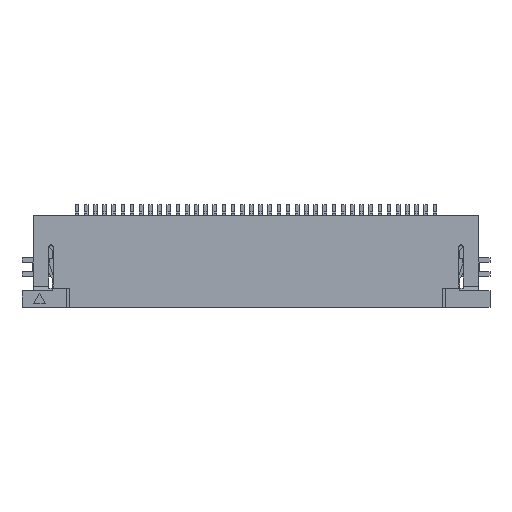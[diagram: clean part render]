
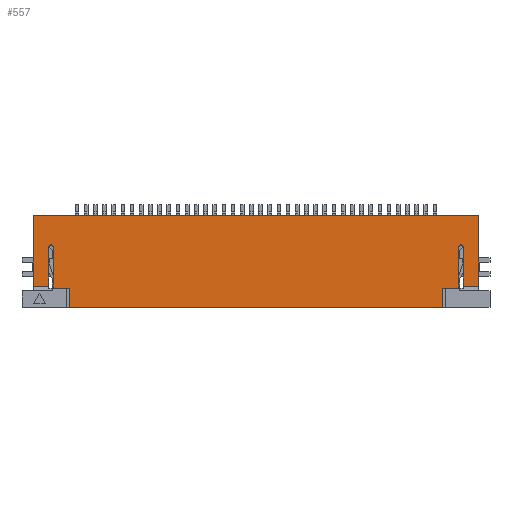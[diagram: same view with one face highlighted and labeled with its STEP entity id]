
A CAD part, top view. The second image highlights one B-rep face of the part: STEP entity #557.
In plain terms, the highlighted planar face has unit normal (0, 0, 1).
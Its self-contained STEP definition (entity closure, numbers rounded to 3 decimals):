
#266=CIRCLE('',#42918,0.125);
#267=CIRCLE('',#42919,0.125);
#557=ADVANCED_FACE('',(#4675),#2679,.T.);
#2679=PLANE('',#42920);
#4675=FACE_OUTER_BOUND('',#6793,.T.);
#6793=EDGE_LOOP('',(#9530,#9531,#9532,#9533,#9534,#9535,#9536,#9537,#9538,
#9539,#9540,#9541,#9542,#9543,#9544,#9545));
#9530=ORIENTED_EDGE('',*,*,#25679,.F.);
#9531=ORIENTED_EDGE('',*,*,#25680,.F.);
#9532=ORIENTED_EDGE('',*,*,#25681,.F.);
#9533=ORIENTED_EDGE('',*,*,#25234,.T.);
#9534=ORIENTED_EDGE('',*,*,#25501,.T.);
#9535=ORIENTED_EDGE('',*,*,#25262,.T.);
#9536=ORIENTED_EDGE('',*,*,#25676,.T.);
#9537=ORIENTED_EDGE('',*,*,#25195,.T.);
#9538=ORIENTED_EDGE('',*,*,#25682,.F.);
#9539=ORIENTED_EDGE('',*,*,#25683,.F.);
#9540=ORIENTED_EDGE('',*,*,#25684,.F.);
#9541=ORIENTED_EDGE('',*,*,#25207,.T.);
#9542=ORIENTED_EDGE('',*,*,#25453,.T.);
#9543=ORIENTED_EDGE('',*,*,#25258,.T.);
#9544=ORIENTED_EDGE('',*,*,#25455,.T.);
#9545=ORIENTED_EDGE('',*,*,#25211,.T.);
#21159=VERTEX_POINT('',#55932);
#21160=VERTEX_POINT('',#55934);
#21171=VERTEX_POINT('',#55957);
#21172=VERTEX_POINT('',#55959);
#21175=VERTEX_POINT('',#55966);
#21176=VERTEX_POINT('',#55968);
#21196=VERTEX_POINT('',#56013);
#21197=VERTEX_POINT('',#56015);
#21220=VERTEX_POINT('',#56067);
#21221=VERTEX_POINT('',#56069);
#21224=VERTEX_POINT('',#56076);
#21225=VERTEX_POINT('',#56078);
#21608=VERTEX_POINT('',#56899);
#21609=VERTEX_POINT('',#56901);
#21610=VERTEX_POINT('',#56904);
#21611=VERTEX_POINT('',#56906);
#25195=EDGE_CURVE('',#21160,#21159,#31273,.T.);
#25207=EDGE_CURVE('',#21172,#21171,#31285,.T.);
#25211=EDGE_CURVE('',#21176,#21175,#31289,.T.);
#25234=EDGE_CURVE('',#21197,#21196,#31312,.T.);
#25258=EDGE_CURVE('',#21221,#21220,#31336,.T.);
#25262=EDGE_CURVE('',#21225,#21224,#31340,.T.);
#25453=EDGE_CURVE('',#21171,#21221,#31530,.T.);
#25455=EDGE_CURVE('',#21220,#21176,#31531,.T.);
#25501=EDGE_CURVE('',#21196,#21225,#31577,.T.);
#25676=EDGE_CURVE('',#21224,#21160,#31752,.T.);
#25679=EDGE_CURVE('',#21608,#21175,#31755,.T.);
#25680=EDGE_CURVE('',#21609,#21608,#266,.T.);
#25681=EDGE_CURVE('',#21197,#21609,#31756,.T.);
#25682=EDGE_CURVE('',#21610,#21159,#31757,.T.);
#25683=EDGE_CURVE('',#21611,#21610,#267,.T.);
#25684=EDGE_CURVE('',#21172,#21611,#31758,.T.);
#31273=LINE('',#55933,#37099);
#31285=LINE('',#55958,#37111);
#31289=LINE('',#55967,#37115);
#31312=LINE('',#56014,#37138);
#31336=LINE('',#56068,#37162);
#31340=LINE('',#56077,#37166);
#31530=LINE('',#56454,#37356);
#31531=LINE('',#56458,#37357);
#31577=LINE('',#56544,#37403);
#31752=LINE('',#56893,#37578);
#31755=LINE('',#56898,#37581);
#31756=LINE('',#56902,#37582);
#31757=LINE('',#56903,#37583);
#31758=LINE('',#56907,#37584);
#37099=VECTOR('',#45318,1.);
#37111=VECTOR('',#45332,1.);
#37115=VECTOR('',#45338,1.);
#37138=VECTOR('',#45367,1.);
#37162=VECTOR('',#45403,1.);
#37166=VECTOR('',#45409,1.);
#37356=VECTOR('',#45605,1.);
#37357=VECTOR('',#45610,1.);
#37403=VECTOR('',#45682,1.);
#37578=VECTOR('',#45865,1.);
#37581=VECTOR('',#45870,1.);
#37582=VECTOR('',#45873,1.);
#37583=VECTOR('',#45874,1.);
#37584=VECTOR('',#45877,1.);
#42918=AXIS2_PLACEMENT_3D('',#56900,#45871,#45872);
#42919=AXIS2_PLACEMENT_3D('',#56905,#45875,#45876);
#42920=AXIS2_PLACEMENT_3D('',#56908,#45878,#45879);
#45318=DIRECTION('',(1.,0.,0.));
#45332=DIRECTION('',(1.,0.,0.));
#45338=DIRECTION('',(1.,0.,0.));
#45367=DIRECTION('',(1.,0.,0.));
#45403=DIRECTION('',(1.,0.,0.));
#45409=DIRECTION('',(-1.,0.,0.));
#45605=DIRECTION('',(0.,-1.,0.));
#45610=DIRECTION('',(0.,1.,0.));
#45682=DIRECTION('',(0.,1.,0.));
#45865=DIRECTION('',(0.,-1.,0.));
#45870=DIRECTION('',(0.,-1.,0.));
#45871=DIRECTION('',(0.,0.,1.));
#45872=DIRECTION('',(1.,0.,0.));
#45873=DIRECTION('',(0.,1.,0.));
#45874=DIRECTION('',(0.,-1.,0.));
#45875=DIRECTION('',(0.,0.,1.));
#45876=DIRECTION('',(-1.,0.,0.));
#45877=DIRECTION('',(0.,1.,0.));
#45878=DIRECTION('',(0.,0.,1.));
#45879=DIRECTION('',(1.,0.,0.));
#55932=CARTESIAN_POINT('',(-11.3,1.15,2.));
#55933=CARTESIAN_POINT('',(-12.15,1.15,2.));
#55934=CARTESIAN_POINT('',(-12.15,1.15,2.));
#55957=CARTESIAN_POINT('',(-10.175,1.05,2.));
#55958=CARTESIAN_POINT('',(-11.1,1.05,2.));
#55959=CARTESIAN_POINT('',(-11.05,1.05,2.));
#55966=CARTESIAN_POINT('',(11.05,1.05,2.));
#55967=CARTESIAN_POINT('',(10.175,1.05,2.));
#55968=CARTESIAN_POINT('',(10.175,1.05,2.));
#56013=CARTESIAN_POINT('',(12.15,1.15,2.));
#56014=CARTESIAN_POINT('',(11.1,1.15,2.));
#56015=CARTESIAN_POINT('',(11.3,1.15,2.));
#56067=CARTESIAN_POINT('',(10.175,0.,2.));
#56068=CARTESIAN_POINT('',(-10.175,0.,2.));
#56069=CARTESIAN_POINT('',(-10.175,0.,2.));
#56076=CARTESIAN_POINT('',(-12.15,5.,2.));
#56077=CARTESIAN_POINT('',(12.15,5.,2.));
#56078=CARTESIAN_POINT('',(12.15,5.,2.));
#56454=CARTESIAN_POINT('',(-10.175,1.05,2.));
#56458=CARTESIAN_POINT('',(10.175,0.,2.));
#56544=CARTESIAN_POINT('',(12.15,1.15,2.));
#56893=CARTESIAN_POINT('',(-12.15,5.,2.));
#56898=CARTESIAN_POINT('',(11.05,3.275,2.));
#56899=CARTESIAN_POINT('',(11.05,3.275,2.));
#56900=CARTESIAN_POINT('',(11.175,3.275,2.));
#56901=CARTESIAN_POINT('',(11.3,3.275,2.));
#56902=CARTESIAN_POINT('',(11.3,1.05,2.));
#56903=CARTESIAN_POINT('',(-11.3,3.275,2.));
#56904=CARTESIAN_POINT('',(-11.3,3.275,2.));
#56905=CARTESIAN_POINT('',(-11.175,3.275,2.));
#56906=CARTESIAN_POINT('',(-11.05,3.275,2.));
#56907=CARTESIAN_POINT('',(-11.05,1.05,2.));
#56908=CARTESIAN_POINT('',(0.,0.,2.));
